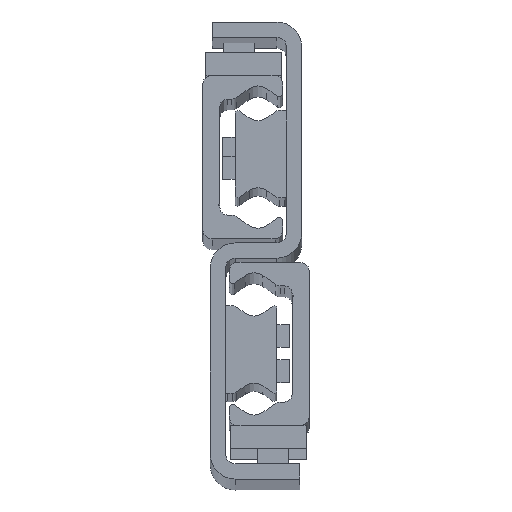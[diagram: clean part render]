
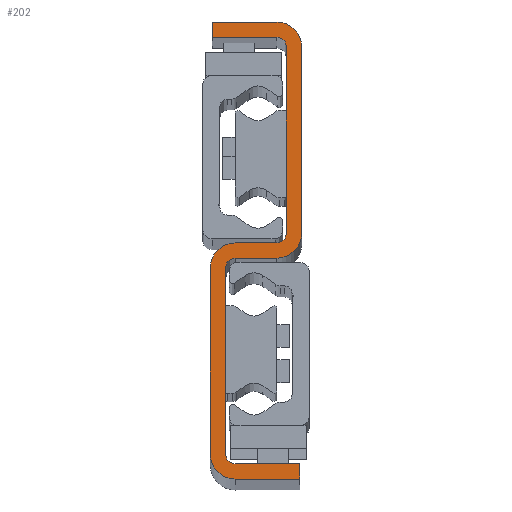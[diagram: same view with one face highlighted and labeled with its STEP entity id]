
A CAD part, top view. The second image highlights one B-rep face of the part: STEP entity #202.
In plain terms, the highlighted planar face has unit normal (0, 0, 1).
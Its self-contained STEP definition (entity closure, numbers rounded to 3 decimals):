
#202=ADVANCED_FACE('',(#729),#730,.T.);
#729=FACE_OUTER_BOUND('',#1599,.T.);
#730=PLANE('',#1600);
#1599=EDGE_LOOP('',(#3165,#3166,#3167,#3168,#3169,#3170,#3171,#3172,#3173,#3174,#3175,#3176,#3177,#3178,#3179,#3180,#3181,#3182,#3183,#3184));
#1600=AXIS2_PLACEMENT_3D('',#3185,#3186,#3187);
#3165=ORIENTED_EDGE('',*,*,#5605,.F.);
#3166=ORIENTED_EDGE('',*,*,#5663,.F.);
#3167=ORIENTED_EDGE('',*,*,#5660,.F.);
#3168=ORIENTED_EDGE('',*,*,#5657,.F.);
#3169=ORIENTED_EDGE('',*,*,#5654,.F.);
#3170=ORIENTED_EDGE('',*,*,#5651,.F.);
#3171=ORIENTED_EDGE('',*,*,#5648,.F.);
#3172=ORIENTED_EDGE('',*,*,#5645,.F.);
#3173=ORIENTED_EDGE('',*,*,#5642,.F.);
#3174=ORIENTED_EDGE('',*,*,#5639,.F.);
#3175=ORIENTED_EDGE('',*,*,#5636,.F.);
#3176=ORIENTED_EDGE('',*,*,#5633,.F.);
#3177=ORIENTED_EDGE('',*,*,#5630,.F.);
#3178=ORIENTED_EDGE('',*,*,#5627,.F.);
#3179=ORIENTED_EDGE('',*,*,#5624,.F.);
#3180=ORIENTED_EDGE('',*,*,#5621,.F.);
#3181=ORIENTED_EDGE('',*,*,#5618,.F.);
#3182=ORIENTED_EDGE('',*,*,#5615,.F.);
#3183=ORIENTED_EDGE('',*,*,#5612,.F.);
#3184=ORIENTED_EDGE('',*,*,#5609,.F.);
#3185=CARTESIAN_POINT('',(-14.,26.,2493.0));
#3186=DIRECTION('',(0.0,0.0,1.0));
#3187=DIRECTION('',(1.0,0.0,0.0));
#5605=EDGE_CURVE('',#6783,#6784,#6785,.T.);
#5609=EDGE_CURVE('',#6784,#6791,#6792,.T.);
#5612=EDGE_CURVE('',#6791,#6796,#6797,.T.);
#5615=EDGE_CURVE('',#6796,#6801,#6802,.T.);
#5618=EDGE_CURVE('',#6801,#6806,#6807,.T.);
#5621=EDGE_CURVE('',#6806,#6811,#6812,.T.);
#5624=EDGE_CURVE('',#6811,#6816,#6817,.T.);
#5627=EDGE_CURVE('',#6816,#6821,#6822,.T.);
#5630=EDGE_CURVE('',#6821,#6826,#6827,.T.);
#5633=EDGE_CURVE('',#6826,#6831,#6832,.T.);
#5636=EDGE_CURVE('',#6831,#6836,#6837,.T.);
#5639=EDGE_CURVE('',#6836,#6841,#6842,.T.);
#5642=EDGE_CURVE('',#6841,#6846,#6847,.T.);
#5645=EDGE_CURVE('',#6846,#6851,#6852,.T.);
#5648=EDGE_CURVE('',#6851,#6856,#6857,.T.);
#5651=EDGE_CURVE('',#6856,#6861,#6862,.T.);
#5654=EDGE_CURVE('',#6861,#6866,#6867,.T.);
#5657=EDGE_CURVE('',#6866,#6871,#6872,.T.);
#5660=EDGE_CURVE('',#6871,#6876,#6877,.T.);
#5663=EDGE_CURVE('',#6876,#6783,#6881,.T.);
#6783=VERTEX_POINT('',#8617);
#6784=VERTEX_POINT('',#8618);
#6785=LINE('',#8619,#8620);
#6791=VERTEX_POINT('',#8629);
#6792=CIRCLE('',#8630,2.5);
#6796=VERTEX_POINT('',#8635);
#6797=LINE('',#8636,#8637);
#6801=VERTEX_POINT('',#8643);
#6802=CIRCLE('',#8644,2.5);
#6806=VERTEX_POINT('',#8649);
#6807=LINE('',#8650,#8651);
#6811=VERTEX_POINT('',#8657);
#6812=LINE('',#8658,#8659);
#6816=VERTEX_POINT('',#8665);
#6817=LINE('',#8666,#8667);
#6821=VERTEX_POINT('',#8673);
#6822=CIRCLE('',#8674,6.5);
#6826=VERTEX_POINT('',#8679);
#6827=LINE('',#8680,#8681);
#6831=VERTEX_POINT('',#8687);
#6832=CIRCLE('',#8688,6.5);
#6836=VERTEX_POINT('',#8693);
#6837=LINE('',#8694,#8695);
#6841=VERTEX_POINT('',#8701);
#6842=CIRCLE('',#8702,2.5);
#6846=VERTEX_POINT('',#8707);
#6847=LINE('',#8708,#8709);
#6851=VERTEX_POINT('',#8715);
#6852=CIRCLE('',#8716,2.5);
#6856=VERTEX_POINT('',#8721);
#6857=LINE('',#8722,#8723);
#6861=VERTEX_POINT('',#8729);
#6862=LINE('',#8730,#8731);
#6866=VERTEX_POINT('',#8737);
#6867=LINE('',#8738,#8739);
#6871=VERTEX_POINT('',#8745);
#6872=CIRCLE('',#8746,6.5);
#6876=VERTEX_POINT('',#8751);
#6877=LINE('',#8752,#8753);
#6881=CIRCLE('',#8759,6.5);
#8617=CARTESIAN_POINT('',(-8.5,24.,2493.0));
#8618=CARTESIAN_POINT('',(-19.5,24.,2493.0));
#8619=CARTESIAN_POINT('',(-8.5,24.,2493.0));
#8620=VECTOR('',#10625,1.0);
#8629=CARTESIAN_POINT('',(-22.,21.5,2493.0));
#8630=AXIS2_PLACEMENT_3D('',#10629,#10630,#10631);
#8635=CARTESIAN_POINT('',(-22.,-27.5,2493.0));
#8636=CARTESIAN_POINT('',(-22.,-27.5,2493.0));
#8637=VECTOR('',#10636,1.0);
#8643=CARTESIAN_POINT('',(-19.5,-30.,2493.0));
#8644=AXIS2_PLACEMENT_3D('',#10639,#10640,#10641);
#8649=CARTESIAN_POINT('',(-2.5,-30.,2493.0));
#8650=CARTESIAN_POINT('',(-19.5,-30.,2493.0));
#8651=VECTOR('',#10646,1.0);
#8657=CARTESIAN_POINT('',(-2.5,-34.,2493.0));
#8658=CARTESIAN_POINT('',(-2.5,-34.,2493.0));
#8659=VECTOR('',#10649,1.0);
#8665=CARTESIAN_POINT('',(-19.5,-34.,2493.0));
#8666=CARTESIAN_POINT('',(-19.5,-34.,2493.0));
#8667=VECTOR('',#10652,1.0);
#8673=CARTESIAN_POINT('',(-26.,-27.5,2493.0));
#8674=AXIS2_PLACEMENT_3D('',#10655,#10656,#10657);
#8679=CARTESIAN_POINT('',(-26.,21.5,2493.0));
#8680=CARTESIAN_POINT('',(-26.,21.5,2493.0));
#8681=VECTOR('',#10662,1.0);
#8687=CARTESIAN_POINT('',(-19.5,28.,2493.0));
#8688=AXIS2_PLACEMENT_3D('',#10665,#10666,#10667);
#8693=CARTESIAN_POINT('',(-8.5,28.,2493.0));
#8694=CARTESIAN_POINT('',(-8.5,28.,2493.0));
#8695=VECTOR('',#10672,1.0);
#8701=CARTESIAN_POINT('',(-6.,30.5,2493.0));
#8702=AXIS2_PLACEMENT_3D('',#10675,#10676,#10677);
#8707=CARTESIAN_POINT('',(-6.,79.5,2493.0));
#8708=CARTESIAN_POINT('',(-6.,79.5,2493.0));
#8709=VECTOR('',#10682,1.0);
#8715=CARTESIAN_POINT('',(-8.5,82.,2493.0));
#8716=AXIS2_PLACEMENT_3D('',#10685,#10686,#10687);
#8721=CARTESIAN_POINT('',(-25.5,82.,2493.0));
#8722=CARTESIAN_POINT('',(-25.5,82.,2493.0));
#8723=VECTOR('',#10692,1.0);
#8729=CARTESIAN_POINT('',(-25.5,86.,2493.0));
#8730=CARTESIAN_POINT('',(-25.5,86.,2493.0));
#8731=VECTOR('',#10695,1.0);
#8737=CARTESIAN_POINT('',(-8.5,86.,2493.0));
#8738=CARTESIAN_POINT('',(-25.5,86.,2493.0));
#8739=VECTOR('',#10698,1.0);
#8745=CARTESIAN_POINT('',(-2.,79.5,2493.0));
#8746=AXIS2_PLACEMENT_3D('',#10701,#10702,#10703);
#8751=CARTESIAN_POINT('',(-2.,30.5,2493.0));
#8752=CARTESIAN_POINT('',(-2.,79.5,2493.0));
#8753=VECTOR('',#10708,1.0);
#8759=AXIS2_PLACEMENT_3D('',#10711,#10712,#10713);
#10625=DIRECTION('',(-1.0,0.,0.0));
#10629=CARTESIAN_POINT('',(-19.5,21.5,2493.0));
#10630=DIRECTION('',(0.0,0.0,1.0));
#10631=DIRECTION('',(1.0,0.0,0.0));
#10636=DIRECTION('',(-0.0,-1.0,-0.0));
#10639=CARTESIAN_POINT('',(-19.5,-27.5,2493.0));
#10640=DIRECTION('',(0.0,0.0,1.0));
#10641=DIRECTION('',(1.0,0.0,0.0));
#10646=DIRECTION('',(1.,0.,0.0));
#10649=DIRECTION('',(-0.0,-1.0,-0.0));
#10652=DIRECTION('',(-1.,0.,-0.0));
#10655=CARTESIAN_POINT('',(-19.5,-27.5,2493.0));
#10656=DIRECTION('',(0.0,0.0,-1.0));
#10657=DIRECTION('',(1.0,0.0,0.0));
#10662=DIRECTION('',(0.0,1.0,0.0));
#10665=CARTESIAN_POINT('',(-19.5,21.5,2493.0));
#10666=DIRECTION('',(0.0,0.0,-1.0));
#10667=DIRECTION('',(1.0,0.0,0.0));
#10672=DIRECTION('',(1.0,0.,0.0));
#10675=CARTESIAN_POINT('',(-8.5,30.5,2493.0));
#10676=DIRECTION('',(0.0,0.0,1.0));
#10677=DIRECTION('',(1.0,0.0,0.0));
#10682=DIRECTION('',(0.0,1.0,0.0));
#10685=CARTESIAN_POINT('',(-8.5,79.5,2493.0));
#10686=DIRECTION('',(0.0,0.0,1.0));
#10687=DIRECTION('',(1.0,0.0,0.0));
#10692=DIRECTION('',(-1.,0.,0.0));
#10695=DIRECTION('',(0.0,1.0,0.0));
#10698=DIRECTION('',(1.,0.,0.0));
#10701=CARTESIAN_POINT('',(-8.5,79.5,2493.0));
#10702=DIRECTION('',(0.0,0.0,-1.0));
#10703=DIRECTION('',(1.0,0.0,0.0));
#10708=DIRECTION('',(0.,-1.0,0.0));
#10711=CARTESIAN_POINT('',(-8.5,30.5,2493.0));
#10712=DIRECTION('',(0.0,0.0,-1.0));
#10713=DIRECTION('',(1.0,0.0,0.0));
